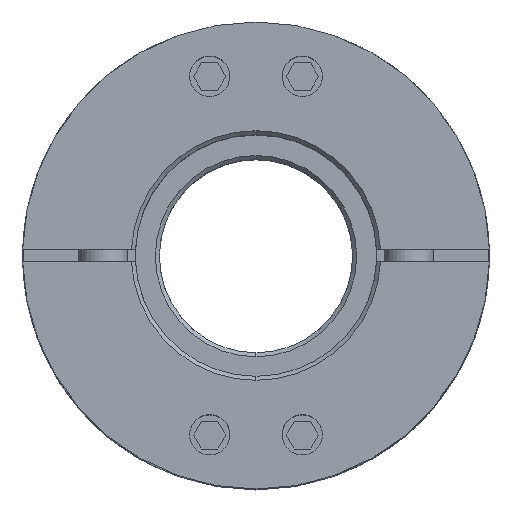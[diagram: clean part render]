
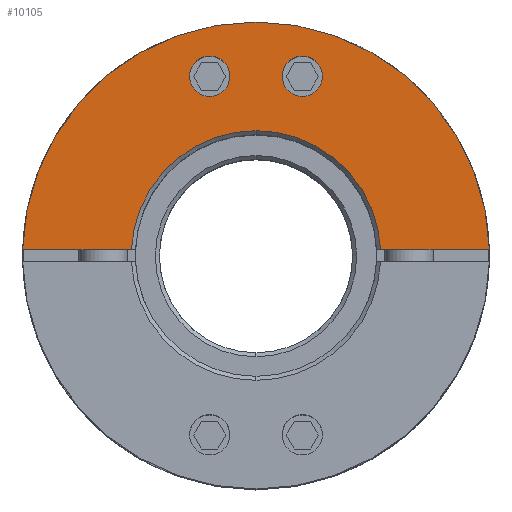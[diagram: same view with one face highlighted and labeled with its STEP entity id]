
A CAD part, top view. The second image highlights one B-rep face of the part: STEP entity #10105.
In plain terms, the highlighted planar face has unit normal (0, 0, 1).
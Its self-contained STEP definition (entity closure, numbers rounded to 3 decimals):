
#6419=CARTESIAN_POINT('',(5.759,24.767,35.75));
#6420=VERTEX_POINT('',#6419);
#6429=CARTESIAN_POINT('',(5.759,19.767,35.75));
#6430=VERTEX_POINT('',#6429);
#6431=CARTESIAN_POINT('',(5.759,22.267,35.75));
#6432=DIRECTION('',(0.0,0.0,-1.0));
#6433=DIRECTION('',(0.0,1.0,0.0));
#6434=AXIS2_PLACEMENT_3D('',#6431,#6432,#6433);
#6435=CIRCLE('',#6434,2.5);
#6436=EDGE_CURVE('',#6430,#6420,#6435,.T.);
#6461=CARTESIAN_POINT('',(-5.759,24.767,35.75));
#6462=VERTEX_POINT('',#6461);
#6471=CARTESIAN_POINT('',(-5.759,19.767,35.75));
#6472=VERTEX_POINT('',#6471);
#6473=CARTESIAN_POINT('',(-5.759,22.267,35.75));
#6474=DIRECTION('',(0.0,0.0,-1.0));
#6475=DIRECTION('',(0.0,1.0,0.0));
#6476=AXIS2_PLACEMENT_3D('',#6473,#6474,#6475);
#6477=CIRCLE('',#6476,2.5);
#6478=EDGE_CURVE('',#6472,#6462,#6477,.T.);
#6715=CARTESIAN_POINT('',(0.,29.0,35.75));
#6716=VERTEX_POINT('',#6715);
#6864=CARTESIAN_POINT('',(-28.99,0.75,35.75));
#6865=VERTEX_POINT('',#6864);
#6872=CARTESIAN_POINT('',(0.,0.0,35.75));
#6873=DIRECTION('',(0.0,0.0,-1.0));
#6874=DIRECTION('',(0.0,1.0,0.0));
#6875=AXIS2_PLACEMENT_3D('',#6872,#6873,#6874);
#6876=CIRCLE('',#6875,29.0);
#6877=EDGE_CURVE('',#6865,#6716,#6876,.T.);
#7045=CARTESIAN_POINT('',(0.,15.5,35.75));
#7046=VERTEX_POINT('',#7045);
#7062=CARTESIAN_POINT('',(15.482,0.75,35.75));
#7063=VERTEX_POINT('',#7062);
#7077=CARTESIAN_POINT('',(0.,0.0,35.75));
#7078=DIRECTION('',(0.0,0.0,1.0));
#7079=DIRECTION('',(0.0,1.0,0.0));
#7080=AXIS2_PLACEMENT_3D('',#7077,#7078,#7079);
#7081=CIRCLE('',#7080,15.5);
#7082=EDGE_CURVE('',#7063,#7046,#7081,.T.);
#9611=CARTESIAN_POINT('',(-15.482,0.75,35.75));
#9612=VERTEX_POINT('',#9611);
#9613=CARTESIAN_POINT('',(0.,0.0,35.75));
#9614=DIRECTION('',(0.0,0.0,1.0));
#9615=DIRECTION('',(0.0,1.0,0.0));
#9616=AXIS2_PLACEMENT_3D('',#9613,#9614,#9615);
#9617=CIRCLE('',#9616,15.5);
#9618=EDGE_CURVE('',#7046,#9612,#9617,.T.);
#9643=CARTESIAN_POINT('',(-28.99,0.75,35.75));
#9644=DIRECTION('',(1.0,0.0,0.0));
#9645=VECTOR('',#9644,13.508);
#9646=LINE('',#9643,#9645);
#9647=EDGE_CURVE('',#6865,#9612,#9646,.T.);
#9679=CARTESIAN_POINT('',(28.99,0.75,35.75));
#9680=VERTEX_POINT('',#9679);
#9687=CARTESIAN_POINT('',(15.482,0.75,35.75));
#9688=DIRECTION('',(1.0,0.0,0.0));
#9689=VECTOR('',#9688,13.508);
#9690=LINE('',#9687,#9689);
#9691=EDGE_CURVE('',#7063,#9680,#9690,.T.);
#9806=CARTESIAN_POINT('',(0.,0.0,35.75));
#9807=DIRECTION('',(0.0,0.0,-1.0));
#9808=DIRECTION('',(0.0,1.0,0.0));
#9809=AXIS2_PLACEMENT_3D('',#9806,#9807,#9808);
#9810=CIRCLE('',#9809,29.0);
#9811=EDGE_CURVE('',#6716,#9680,#9810,.T.);
#10044=CARTESIAN_POINT('',(-5.759,22.267,35.75));
#10045=DIRECTION('',(0.0,0.0,-1.0));
#10046=DIRECTION('',(0.0,1.0,0.0));
#10047=AXIS2_PLACEMENT_3D('',#10044,#10045,#10046);
#10048=CIRCLE('',#10047,2.5);
#10049=EDGE_CURVE('',#6462,#6472,#10048,.T.);
#10062=CARTESIAN_POINT('',(5.759,22.267,35.75));
#10063=DIRECTION('',(0.0,0.0,-1.0));
#10064=DIRECTION('',(0.0,1.0,0.0));
#10065=AXIS2_PLACEMENT_3D('',#10062,#10063,#10064);
#10066=CIRCLE('',#10065,2.5);
#10067=EDGE_CURVE('',#6420,#6430,#10066,.T.);
#10084=CARTESIAN_POINT('',(0.,2.636,35.75));
#10085=DIRECTION('',(0.0,0.0,1.0));
#10086=DIRECTION('',(0.0,1.0,0.0));
#10087=AXIS2_PLACEMENT_3D('',#10084,#10085,#10086);
#10088=PLANE('',#10087);
#10089=ORIENTED_EDGE('',*,*,#7082,.F.);
#10090=ORIENTED_EDGE('',*,*,#9691,.T.);
#10091=ORIENTED_EDGE('',*,*,#9811,.F.);
#10092=ORIENTED_EDGE('',*,*,#6877,.F.);
#10093=ORIENTED_EDGE('',*,*,#9647,.T.);
#10094=ORIENTED_EDGE('',*,*,#9618,.F.);
#10095=EDGE_LOOP('',(#10089,#10090,#10091,#10092,#10093,#10094));
#10096=FACE_OUTER_BOUND('',#10095,.T.);
#10097=ORIENTED_EDGE('',*,*,#10049,.T.);
#10098=ORIENTED_EDGE('',*,*,#6478,.T.);
#10099=EDGE_LOOP('',(#10097,#10098));
#10100=FACE_BOUND('',#10099,.T.);
#10101=ORIENTED_EDGE('',*,*,#10067,.T.);
#10102=ORIENTED_EDGE('',*,*,#6436,.T.);
#10103=EDGE_LOOP('',(#10101,#10102));
#10104=FACE_BOUND('',#10103,.T.);
#10105=ADVANCED_FACE('',(#10096,#10100,#10104),#10088,.T.);
